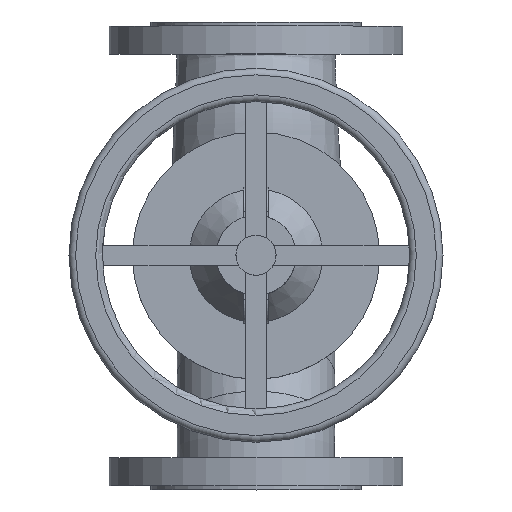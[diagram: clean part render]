
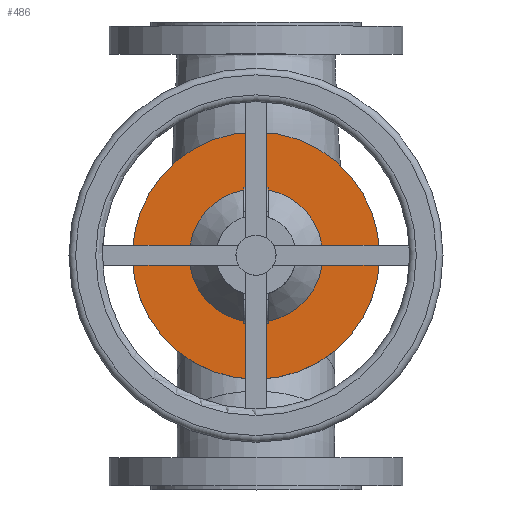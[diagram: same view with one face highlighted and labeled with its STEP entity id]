
A CAD part, top view. The second image highlights one B-rep face of the part: STEP entity #486.
In plain terms, the highlighted planar face has unit normal (0, 0, 1).
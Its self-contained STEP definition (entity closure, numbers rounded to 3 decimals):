
#486=ADVANCED_FACE('',(#2129,#2131),#2133,.T.);
#2129=FACE_BOUND('',#2130,.T.);
#2130=EDGE_LOOP('',(#31817));
#2131=FACE_BOUND('',#2132,.T.);
#2132=EDGE_LOOP('',(#31818));
#2133=PLANE('',#2134);
#2134=AXIS2_PLACEMENT_3D('',#2135,#2136,#2137);
#2135=CARTESIAN_POINT('',(0.,0.,161.));
#2136=DIRECTION('',(0.,0.,1.));
#2137=DIRECTION('',(0.,1.,0.));
#31817=ORIENTED_EDGE('',*,*,#40841,.F.);
#31818=ORIENTED_EDGE('',*,*,#40812,.T.);
#40812=EDGE_CURVE('',#41397,#41397,#41398,.T.);
#40841=EDGE_CURVE('',#41443,#41443,#41444,.T.);
#41397=VERTEX_POINT('',#42500);
#41398=CIRCLE('',#42501,50.);
#41443=VERTEX_POINT('',#42613);
#41444=CIRCLE('',#42614,92.5);
#42500=CARTESIAN_POINT('',(0.,50.,161.));
#42501=AXIS2_PLACEMENT_3D('',#42502,#42503,#42504);
#42502=CARTESIAN_POINT('',(0.,0.,161.));
#42503=DIRECTION('',(0.,0.,-1.));
#42504=DIRECTION('',(0.,1.,0.));
#42613=CARTESIAN_POINT('',(0.,92.5,161.));
#42614=AXIS2_PLACEMENT_3D('',#42615,#42616,#42617);
#42615=CARTESIAN_POINT('',(0.,0.,161.));
#42616=DIRECTION('',(0.,0.,-1.));
#42617=DIRECTION('',(0.,1.,0.));
